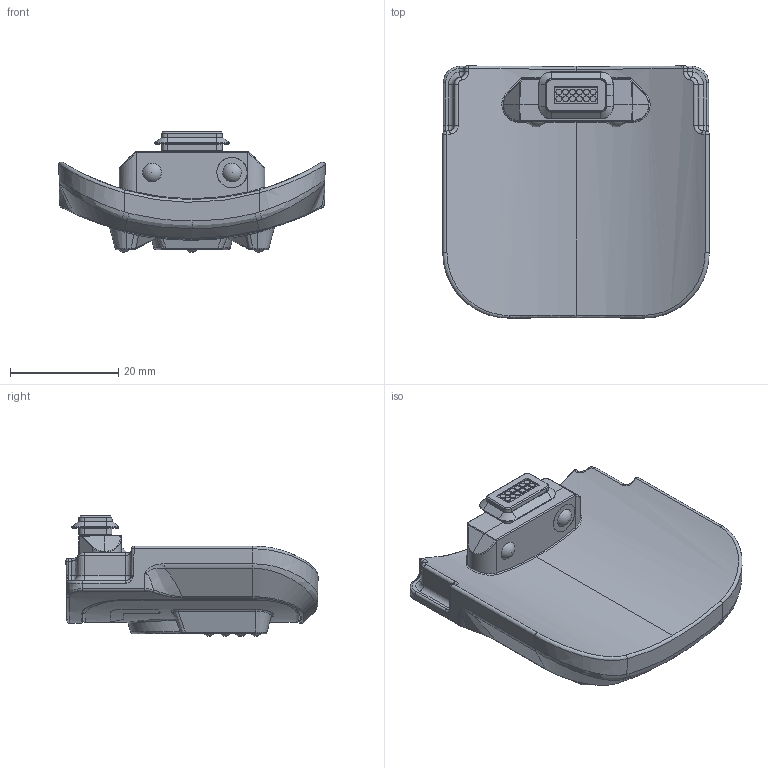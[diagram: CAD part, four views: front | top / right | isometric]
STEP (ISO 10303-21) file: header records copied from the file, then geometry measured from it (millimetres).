
FILE_DESCRIPTION (( 'STEP AP203' ), '1' );
FILE_NAME ('SP7 Smart panel 90.STEP', '2026-10-02T12:50:35', ( '' ), ( '' ), 'SwSTEP 2.0', 'SolidWorks 2025', '' );
FILE_SCHEMA (( 'CONFIG_CONTROL_DESIGN' ));
Length unit declared in the file: millimetre
Products named in the file (1): SP7 Smart panel 90
Bounding box: 49.26 x 46.63 x 22.31 mm (x, y, z)
Volume: 16460.5 mm3; surface area: 11504.5 mm2
Topology: 15 solids, 20 shells, 1008 faces, 2359 edges, 1392 vertices
Faces by surface type: cylinder 344, plane 248, bspline 196, cone 123, torus 66, sphere 31
Entity records: 40021 total; most frequent: CARTESIAN_POINT 18584, ORIENTED_EDGE 4602, DIRECTION 4280, EDGE_CURVE 2301, AXIS2_PLACEMENT_3D 1719, VERTEX_POINT 1371, EDGE_LOOP 1086, ADVANCED_FACE 1008
